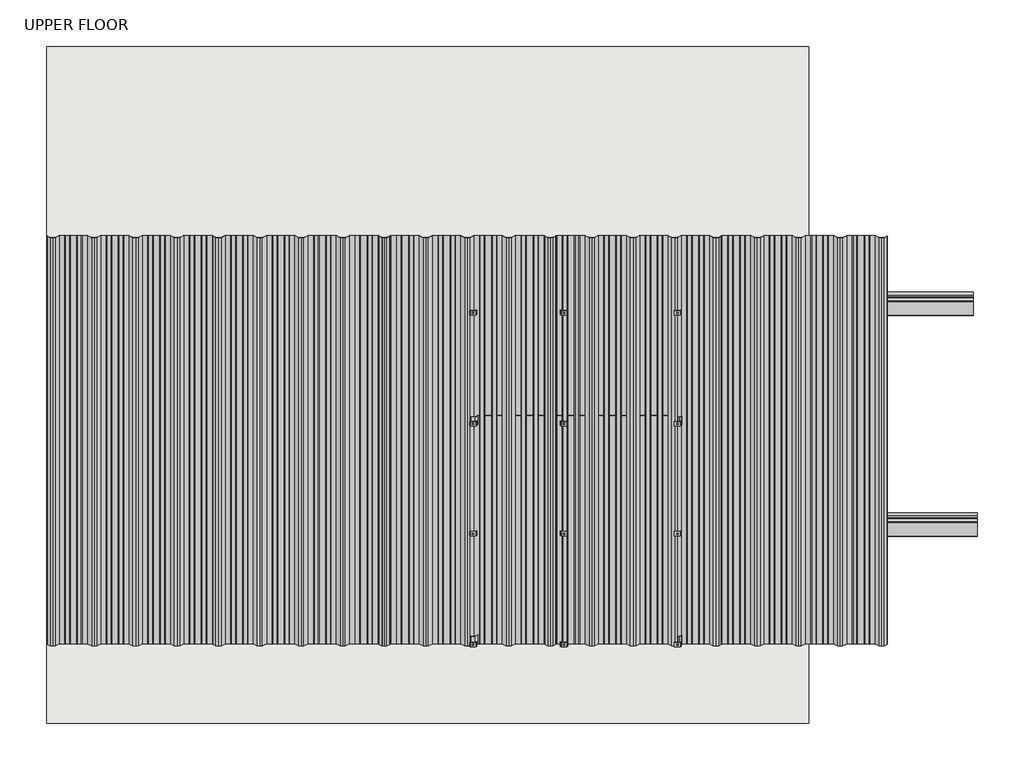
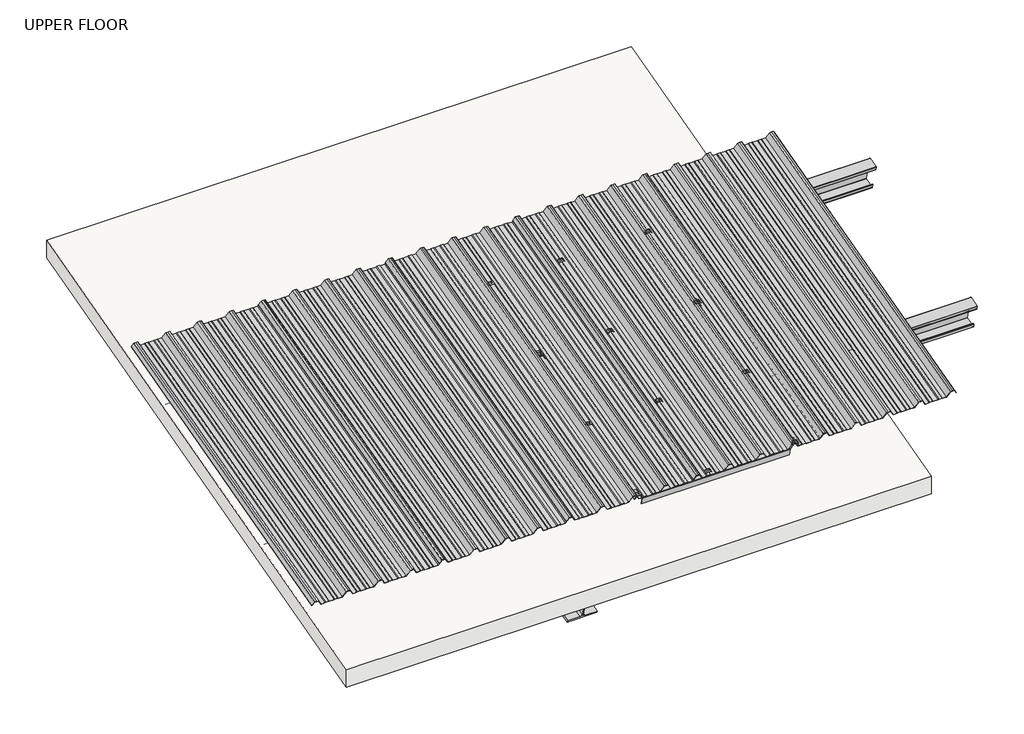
# One storey: 22 beams, 1 roof.
"""IFC4 building model written with IfcOpenShell, lengths in millimetres."""

from ifc_helpers import new_model, si_unit, point, frame, frame_2d, origin, place, context, project, spatial, polyline, circle_curve, trimmed, segment, composite_curve, outline, extrude, transform, mapped, element, save
from components import beam_ff1f1038, mc700_85815ef7, mc700_2e5cd101, mc700_c5d29af6, purlin_purlin_0a154449, purlin_purlin_385be1fa, ub_universal_beams_310ub40_4_2dd72c29

model = new_model("IFC4")

# Units and contexts
model_context = context("Model", 3, world=origin())
ifc_project = project(units=[si_unit("LENGTHUNIT", "METRE", prefix="MILLI")], contexts=[model_context])

# Site, building, storey
site = spatial("IfcSite", under=ifc_project)
building = spatial("IfcBuilding", under=site)
storey = spatial("IfcBuildingStorey", under=building, Name="UPPER FLOOR", Elevation=2700.0)

# Beams
placement = place(None, origin())
beam_shape = beam_ff1f1038(model_context)
element("IfcBeam", 1, ObjectType="3D_Metalcraft Translucent Fixing_MC700 : 3D_Metalcraft Translucent Fixing_MC700", at=placement, inside=storey, context=model_context, shape_type="MappedRepresentation", body=[
    mapped(beam_shape, transform((-8283.6633442, -11894.5391312, 1381.7719636), x_axis=(0.0, -0.9656300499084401, -0.2599203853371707), y_axis=(1.0, 0.0, 0.0), z_axis=(0.0, -0.25992038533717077, 0.9656300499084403))),
])
element("IfcBeam", 2, ObjectType="3D_Metalcraft Translucent Fixing_MC700 : 3D_Metalcraft Translucent Fixing_MC700", at=placement, inside=storey, context=model_context, shape_type="MappedRepresentation", body=[
    mapped(beam_shape, transform((-8283.6633442, -10947.9318215, 1635.4146278), x_axis=(0.0, -0.9656300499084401, -0.2599203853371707), y_axis=(1.0, 0.0, 0.0), z_axis=(0.0, -0.25992038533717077, 0.9656300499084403))),
])
element("IfcBeam", 3, ObjectType="3D_Metalcraft Translucent Fixing_MC700 : 3D_Metalcraft Translucent Fixing_MC700", at=placement, inside=storey, context=model_context, shape_type="MappedRepresentation", body=[
    mapped(beam_shape, transform((-8283.6633442, -11419.7277142, 1508.9972994), x_axis=(0.0, -0.9656300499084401, -0.2599203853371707), y_axis=(1.0, 0.0, 0.0), z_axis=(0.0, -0.25992038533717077, 0.9656300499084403))),
])
element("IfcBeam", 4, ObjectType="3D_Metalcraft Translucent Fixing_MC700 : 3D_Metalcraft Translucent Fixing_MC700", at=placement, inside=storey, context=model_context, shape_type="MappedRepresentation", body=[
    mapped(beam_shape, transform((-8283.6633442, -10473.1204044, 1762.6399636), x_axis=(0.0, -0.9656300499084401, -0.2599203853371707), y_axis=(1.0, 0.0, 0.0), z_axis=(0.0, -0.25992038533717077, 0.9656300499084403))),
])
element("IfcBeam", 5, ObjectType="3D_Metalcraft Translucent Fixing_MC700 : 3D_Metalcraft Translucent Fixing_MC700", at=placement, inside=storey, context=model_context, shape_type="MappedRepresentation", body=[
    mapped(beam_shape, transform((-7408.6633442, -11894.5391312, 1381.7719636), x_axis=(0.0, -0.9656300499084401, -0.2599203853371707), y_axis=(1.0, 0.0, 0.0), z_axis=(0.0, -0.25992038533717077, 0.9656300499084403))),
])
element("IfcBeam", 6, ObjectType="3D_Metalcraft Translucent Fixing_MC700 : 3D_Metalcraft Translucent Fixing_MC700", at=placement, inside=storey, context=model_context, shape_type="MappedRepresentation", body=[
    mapped(beam_shape, transform((-7408.6633442, -10947.9318215, 1635.4146278), x_axis=(0.0, -0.9656300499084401, -0.2599203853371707), y_axis=(1.0, 0.0, 0.0), z_axis=(0.0, -0.25992038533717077, 0.9656300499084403))),
])
element("IfcBeam", 7, ObjectType="3D_Metalcraft Translucent Fixing_MC700 : 3D_Metalcraft Translucent Fixing_MC700", at=placement, inside=storey, context=model_context, shape_type="MappedRepresentation", body=[
    mapped(beam_shape, transform((-7408.6633442, -11419.7277142, 1508.9972994), x_axis=(0.0, -0.9656300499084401, -0.2599203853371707), y_axis=(1.0, 0.0, 0.0), z_axis=(0.0, -0.25992038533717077, 0.9656300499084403))),
])
element("IfcBeam", 8, ObjectType="3D_Metalcraft Translucent Fixing_MC700 : 3D_Metalcraft Translucent Fixing_MC700", at=placement, inside=storey, context=model_context, shape_type="MappedRepresentation", body=[
    mapped(beam_shape, transform((-7408.6633442, -10473.1204044, 1762.6399636), x_axis=(0.0, -0.9656300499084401, -0.2599203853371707), y_axis=(1.0, 0.0, 0.0), z_axis=(0.0, -0.25992038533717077, 0.9656300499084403))),
])
element("IfcBeam", 9, ObjectType="3D_Metalcraft Translucent Fixing_MC700 : 3D_Metalcraft Translucent Fixing_MC700", at=placement, inside=storey, context=model_context, shape_type="MappedRepresentation", body=[
    mapped(beam_shape, transform((-7894.4630062, -11894.7008931, 1381.7719636), x_axis=(0.0, -0.9656300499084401, -0.2599203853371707), y_axis=(1.0, 0.0, 0.0), z_axis=(0.0, -0.25992038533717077, 0.9656300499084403))),
])
element("IfcBeam", 10, ObjectType="3D_Metalcraft Translucent Fixing_MC700 : 3D_Metalcraft Translucent Fixing_MC700", at=placement, inside=storey, context=model_context, shape_type="MappedRepresentation", body=[
    mapped(beam_shape, transform((-7894.4630062, -10948.0935834, 1635.4146278), x_axis=(0.0, -0.9656300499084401, -0.2599203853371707), y_axis=(1.0, 0.0, 0.0), z_axis=(0.0, -0.25992038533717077, 0.9656300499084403))),
])
element("IfcBeam", 11, ObjectType="3D_Metalcraft Translucent Fixing_MC700 : 3D_Metalcraft Translucent Fixing_MC700", at=placement, inside=storey, context=model_context, shape_type="MappedRepresentation", body=[
    mapped(beam_shape, transform((-7894.4630062, -11419.8894761, 1508.9972994), x_axis=(0.0, -0.9656300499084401, -0.2599203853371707), y_axis=(1.0, 0.0, 0.0), z_axis=(0.0, -0.25992038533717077, 0.9656300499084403))),
])
element("IfcBeam", 12, ObjectType="3D_Metalcraft Translucent Fixing_MC700 : 3D_Metalcraft Translucent Fixing_MC700", at=placement, inside=storey, context=model_context, shape_type="MappedRepresentation", body=[
    mapped(beam_shape, transform((-7894.4630062, -10473.2821663, 1762.6399636), x_axis=(0.0, -0.9656300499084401, -0.2599203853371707), y_axis=(1.0, 0.0, 0.0), z_axis=(0.0, -0.25992038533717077, 0.9656300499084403))),
])
element("IfcBeam", 13, ObjectType="3D_Metalcraft Mid Span Support_MC700 : MC700", at=placement, inside=storey, context=model_context, shape_type="SweptSolid", body=[
    extrude(outline(composite_curve([segment(polyline([(0.2518438, -0.9319429), (-18.8637414, -12.0772602), (-18.8637414, -28.3321445), (10.1362586, -45.2405571), (10.1362586, -870.8881466), (-18.8637414, -887.7965592), (-18.8637414, -904.0514435), (0.2518438, -915.1967608)]), True, "CONTINUOUS"), segment(trimmed(circle_curve(frame_2d((0.0, -915.6287038)), 0.5), [point((0.2518438, -915.1967608))], [point((-0.2518438, -916.0606467))], False, "CARTESIAN"), True, "CONTINUOUS"), segment(polyline([(-0.2518438, -916.0606467), (-19.8637414, -904.6259551), (-19.8637414, -887.2220477), (9.1362585, -870.3136351), (9.1362585, -45.8150687), (-19.8637414, -28.9066561), (-19.8637414, -11.5027487), (-0.2518438, -0.068057)]), True, "CONTINUOUS"), segment(trimmed(circle_curve(frame_2d((0.0, -0.5)), 0.5), [point((-0.2518438, -0.068057))], [point((0.2518438, -0.9319429))], False, "CARTESIAN"), True, "CONTINUOUS")], self_intersect=False)), frame((-8305.0448727, -11886.0290126, 1328.6227151), z_axis=(0.0, 0.9656300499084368, 0.25992038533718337), x_axis=(0.0, 0.25992038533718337, -0.9656300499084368)), (0.0, 0.0, 1.0), 40.0),
    extrude(outline(polyline([(0.0, -1.0000001), (0.0, 0.0), (825.6475895, 0.0), (825.6475895, -1.0000001), (0.0, -1.0000001)])), frame((-8259.8043156, -11872.0319469, 1280.4695576), z_axis=(0.0, -0.25992038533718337, 0.9656300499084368), x_axis=(1.0, 0.0, 0.0)), (0.0, 0.0, 1.0), 40.0),
])
element("IfcBeam", 14, ObjectType="3D_Metalcraft Mid Span Support_MC700 : MC700", at=placement, inside=storey, context=model_context, shape_type="SweptSolid", body=[
    extrude(outline(composite_curve([segment(polyline([(0.2518438, -0.931943), (-18.8637414, -12.0772603), (-18.8637414, -28.3321446), (10.1362586, -45.2405572), (10.1362586, -870.8881467), (-18.8637414, -887.7965593), (-18.8637414, -904.0514436), (0.2518438, -915.1967609)]), True, "CONTINUOUS"), segment(trimmed(circle_curve(frame_2d((0.0, -915.6287038)), 0.5), [point((0.2518438, -915.1967609))], [point((-0.2518438, -916.0606468))], False, "CARTESIAN"), True, "CONTINUOUS"), segment(polyline([(-0.2518438, -916.0606468), (-19.8637414, -904.6259552), (-19.8637414, -887.2220477), (9.1362586, -870.3136351), (9.1362586, -45.8150687), (-19.8637414, -28.9066562), (-19.8637414, -11.5027487), (-0.2518438, -0.0680571)]), True, "CONTINUOUS"), segment(trimmed(circle_curve(frame_2d((0.0, -0.5)), 0.5), [point((-0.2518438, -0.0680571))], [point((0.2518438, -0.931943))], False, "CARTESIAN"), True, "CONTINUOUS")], self_intersect=False)), frame((-8305.0165673, -10946.5706287, 1580.4281735), z_axis=(0.0, 0.9656300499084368, 0.25992038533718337), x_axis=(0.0, 0.25992038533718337, -0.9656300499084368)), (0.0, 0.0, 1.0), 40.0),
    extrude(outline(polyline([(0.0, -1.0), (0.0, 0.0), (825.6475895, 0.0), (825.6475895, -1.0), (0.0, -1.0)])), frame((-8259.7760101, -10932.573563, 1532.275016), z_axis=(0.0, -0.25992038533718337, 0.9656300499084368), x_axis=(1.0, 0.0, 0.0)), (0.0, 0.0, 1.0), 40.0),
])
mc700_shape = mc700_85815ef7(model_context)
element("IfcBeam", 15, ObjectType="3D_Metalcraft MC700_Translucent : MC700", at=placement, inside=storey, context=model_context, shape_type="MappedRepresentation", body=[
    mapped(mc700_shape, transform((-7243.1309808, -11016.9567587, 1580.4815218), x_axis=(0.0, -0.9659258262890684, -0.25881904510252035), y_axis=(1.0000000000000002, 0.0, 0.0), z_axis=(0.0, -0.2588190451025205, 0.9659258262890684))),
])
mc700_2_shape = mc700_2e5cd101(model_context)
element("IfcBeam", 16, ObjectType="3D_Metalcraft MC700 : MC700", at=placement, inside=storey, context=model_context, shape_type="MappedRepresentation", body=[
    mapped(mc700_2_shape, transform((-7243.1309808, -11016.9567588, 1580.4815222), x_axis=(0.0, -0.9659258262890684, -0.25881904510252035), y_axis=(1.0000000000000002, 0.0, 0.0), z_axis=(0.0, -0.2588190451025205, 0.9659258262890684))),
])
mc700_3_shape = mc700_c5d29af6(model_context)
element("IfcBeam", 17, ObjectType="3D_Metalcraft MC700 : MC700", at=placement, inside=storey, context=model_context, shape_type="MappedRepresentation", body=[
    mapped(mc700_3_shape, transform((-7953.1309808, -11016.9567587, 1580.4815218), x_axis=(0.0, -0.9659258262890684, -0.25881904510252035), y_axis=(1.0000000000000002, 0.0, 0.0), z_axis=(0.0, -0.2588190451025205, 0.9659258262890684))),
])
element("IfcBeam", 18, ObjectType="3D_Metalcraft MC700 : MC700", at=placement, inside=storey, context=model_context, shape_type="MappedRepresentation", body=[
    mapped(mc700_3_shape, transform((-8663.1309808, -11016.9567587, 1580.4815218), x_axis=(0.0, -0.9659258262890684, -0.25881904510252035), y_axis=(1.0000000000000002, 0.0, 0.0), z_axis=(0.0, -0.2588190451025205, 0.9659258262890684))),
])
element("IfcBeam", 19, ObjectType="3D_Metalcraft MC700 : MC700", at=placement, inside=storey, context=model_context, shape_type="MappedRepresentation", body=[
    mapped(mc700_3_shape, transform((-9373.1309808, -11016.9567587, 1580.4815218), x_axis=(0.0, -0.9659258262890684, -0.25881904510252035), y_axis=(1.0000000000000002, 0.0, 0.0), z_axis=(0.0, -0.2588190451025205, 0.9659258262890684))),
])
purlin_purlin_shape = purlin_purlin_0a154449(model_context)
element("IfcBeam", 20, ObjectType="Purlin : Purlin", at=placement, inside=storey, context=model_context, shape_type="MappedRepresentation", body=[
    mapped(purlin_purlin_shape, transform((-8099.7511661, -10428.1055085, 1614.5173623), x_axis=(1.0, 0.0, 0.0), y_axis=(0.0, 0.9659258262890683, 0.25881904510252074), z_axis=(0.0, -0.25881904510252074, 0.9659258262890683))),
])
purlin_purlin_2_shape = purlin_purlin_385be1fa(model_context)
element("IfcBeam", 21, ObjectType="Purlin : Purlin", at=placement, inside=storey, context=model_context, shape_type="MappedRepresentation", body=[
    mapped(purlin_purlin_2_shape, transform((-8091.0236337, -11374.7128182, 1360.8746981), x_axis=(1.0, 0.0, 0.0), y_axis=(0.0, 0.9659258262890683, 0.25881904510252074), z_axis=(0.0, -0.25881904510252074, 0.9659258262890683))),
])
ub_universal_beams_310ub40_4_shape = ub_universal_beams_310ub40_4_2dd72c29(model_context)
element("IfcBeam", 22, ObjectType="UB-Universal Beams : 310UB40.4", at=placement, inside=storey, context=model_context, shape_type="MappedRepresentation", body=[
    mapped(ub_universal_beams_310ub40_4_shape, transform((-8645.3628017, -10926.7542518, 1238.187272), x_axis=(0.0, 0.9658732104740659, 0.2590153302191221), y_axis=(-1.0, 0.0, 0.0), z_axis=(0.0, -0.2590153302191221, 0.9658732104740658))),
])

# Roof
element("IfcRoof", 23, ObjectType="Generic - 100mm", at=placement, inside=storey, context=model_context, shape_type="SweptSolid", body=[
    extrude(outline(polyline([(-12225.8425437, 1160.7733095), (-9325.8425437, 1937.8259676), (-9325.8425437, 1834.2983495), (-12225.8425437, 1057.2456915), (-12225.8425437, 1160.7733095)])), frame((-10109.1822654, 0.0, 0.0), z_axis=(1.0, 0.0, 0.0), x_axis=(0.0, 1.0, 0.0)), (0.0, 0.0, 1.0), 3263.8194638),
])

save(model, "model.ifc")
